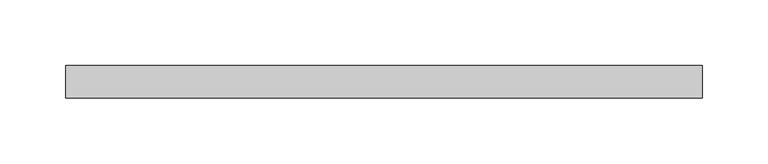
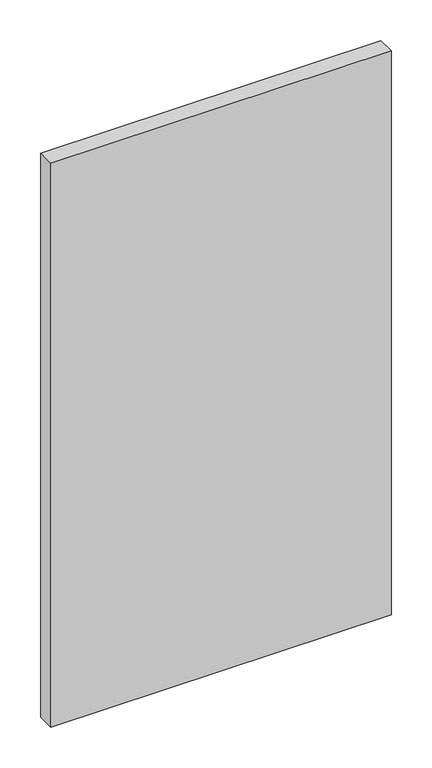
"""IFC4 building model written with IfcOpenShell, lengths in millimetres: plate geometry, Системная панель : ADSK_Cтеклопакет_25."""

from ifc_helpers import new_model, si_unit, origin, origin_with_axes, place, context, project, spatial, polyline, outline, extrude, source, transform, mapped, element, save


def plate_3df24eb0(model_context):
    return source(origin(), model_context, "Body", "SweptSolid", [
        extrude(outline(polyline([(242.5087699, -12.5), (-242.5087699, -12.5), (-242.5087699, 12.5), (242.5087699, 12.5), (242.5087699, -12.5)])), origin_with_axes(), (0.0, 0.0, 1.0), 850.0),
    ])


if __name__ == "__main__":
    model = new_model("IFC4")
    model_context = context("Model", 3, world=origin())
    ifc_project = project(units=[si_unit("LENGTHUNIT", "METRE", prefix="MILLI")], contexts=[model_context])
    site = spatial("IfcSite", under=ifc_project)
    building = spatial("IfcBuilding", under=site)
    placement = place(None, origin())
    plate_shape = plate_3df24eb0(model_context)
    element("IfcPlate", 1, ObjectType="Системная панель : ADSK_Cтеклопакет_25", at=placement, inside=building, context=model_context, shape_type="MappedRepresentation", body=[
        mapped(plate_shape, transform((0.0, 0.0, 0.0), x_axis=(1.0, 0.0, 0.0), y_axis=(0.0, 1.0, 0.0), z_axis=(0.0, 0.0, 1.0))),
    ])
    save(model, "model.ifc")
